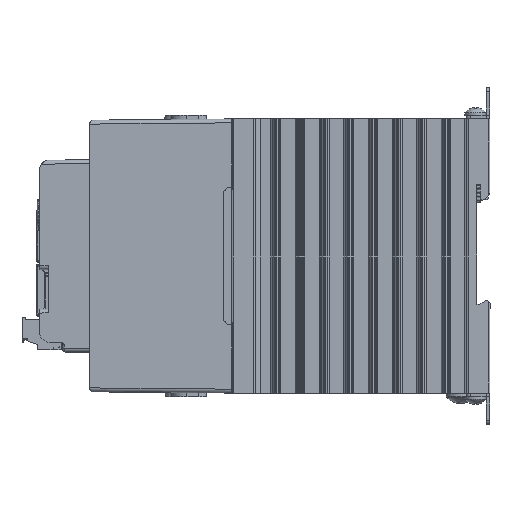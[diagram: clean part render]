
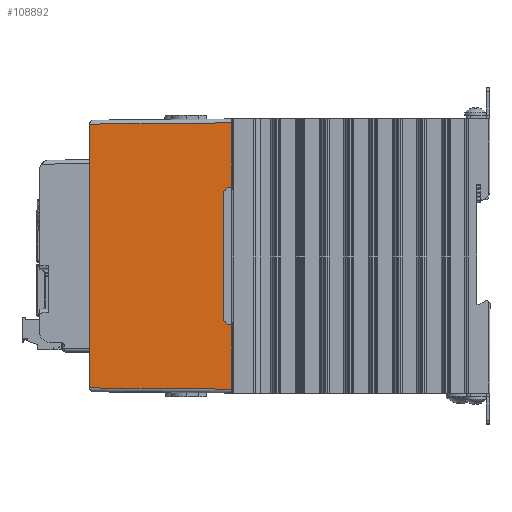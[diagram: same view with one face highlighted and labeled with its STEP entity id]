
A CAD part, left-side view. The second image highlights one B-rep face of the part: STEP entity #108892.
In plain terms, the highlighted planar face has unit normal (-1, 0.009, 0) as drawn and (1, 0, 0.009) by its records, which use the part's own axes.
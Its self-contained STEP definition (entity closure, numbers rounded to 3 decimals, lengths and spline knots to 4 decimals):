
#12513=FACE_OUTER_BOUND('',#18544,.T.);
#18544=EDGE_LOOP('',(#95578,#95579,#95580,#95581,#95582,#95583,#95584,#95585,
#95586,#95587));
#29619=LINE('',#189339,#41327);
#29749=LINE('',#190124,#41457);
#29755=LINE('',#190136,#41463);
#29759=LINE('',#190142,#41467);
#29761=LINE('',#190146,#41469);
#29763=LINE('',#190150,#41471);
#29764=LINE('',#190153,#41472);
#30109=LINE('',#190911,#41817);
#30111=LINE('',#190917,#41819);
#30112=LINE('',#190918,#41820);
#41327=VECTOR('',#142705,0.3937);
#41457=VECTOR('',#143081,0.3937);
#41463=VECTOR('',#143091,0.3937);
#41467=VECTOR('',#143099,0.3937);
#41469=VECTOR('',#143103,0.3937);
#41471=VECTOR('',#143107,0.3937);
#41472=VECTOR('',#143110,0.3937);
#41817=VECTOR('',#143835,0.3937);
#41819=VECTOR('',#143843,0.3937);
#41820=VECTOR('',#143844,0.3937);
#51312=VERTEX_POINT('',#189336);
#51313=VERTEX_POINT('',#189338);
#51416=VERTEX_POINT('',#190121);
#51417=VERTEX_POINT('',#190123);
#51420=VERTEX_POINT('',#190133);
#51421=VERTEX_POINT('',#190135);
#51422=VERTEX_POINT('',#190144);
#51423=VERTEX_POINT('',#190148);
#51424=VERTEX_POINT('',#190152);
#51624=VERTEX_POINT('',#190916);
#65972=EDGE_CURVE('',#51313,#51312,#29619,.T.);
#66160=EDGE_CURVE('',#51417,#51416,#29749,.T.);
#66166=EDGE_CURVE('',#51421,#51420,#29755,.T.);
#66170=EDGE_CURVE('',#51416,#51421,#29759,.T.);
#66172=EDGE_CURVE('',#51420,#51422,#29761,.T.);
#66174=EDGE_CURVE('',#51422,#51423,#29763,.T.);
#66175=EDGE_CURVE('',#51424,#51417,#29764,.T.);
#66541=EDGE_CURVE('',#51424,#51312,#30109,.T.);
#66544=EDGE_CURVE('',#51423,#51624,#30111,.T.);
#66545=EDGE_CURVE('',#51313,#51624,#30112,.T.);
#95578=ORIENTED_EDGE('',*,*,#66174,.T.);
#95579=ORIENTED_EDGE('',*,*,#66544,.T.);
#95580=ORIENTED_EDGE('',*,*,#66545,.F.);
#95581=ORIENTED_EDGE('',*,*,#65972,.T.);
#95582=ORIENTED_EDGE('',*,*,#66541,.F.);
#95583=ORIENTED_EDGE('',*,*,#66175,.T.);
#95584=ORIENTED_EDGE('',*,*,#66160,.T.);
#95585=ORIENTED_EDGE('',*,*,#66170,.T.);
#95586=ORIENTED_EDGE('',*,*,#66166,.T.);
#95587=ORIENTED_EDGE('',*,*,#66172,.T.);
#103708=PLANE('',#117303);
#108892=ADVANCED_FACE('',(#12513),#103708,.T.);
#117303=AXIS2_PLACEMENT_3D('',#190915,#143841,#143842);
#142705=DIRECTION('',(0.,-1.,0.));
#143081=DIRECTION('',(-0.009,0.009,1.));
#143091=DIRECTION('',(0.,1.,0.));
#143099=DIRECTION('',(-0.006,0.71,0.704));
#143103=DIRECTION('',(0.006,0.71,-0.704));
#143107=DIRECTION('',(0.009,0.009,-1.));
#143110=DIRECTION('',(0.,1.,0.));
#143835=DIRECTION('',(-0.009,0.009,1.));
#143841=DIRECTION('center_axis',(1.,0.,
0.009));
#143842=DIRECTION('ref_axis',(0.,1.,0.));
#143843=DIRECTION('',(0.,1.,0.));
#143844=DIRECTION('',(0.009,0.009,-1.));
#189336=CARTESIAN_POINT('',(1.3842,0.0658,1.811));
#189338=CARTESIAN_POINT('',(1.3842,3.4342,1.811));
#189339=CARTESIAN_POINT('',(1.3842,0.,1.811));
#190121=CARTESIAN_POINT('',(1.3995,0.8705,0.0521));
#190123=CARTESIAN_POINT('',(1.4,0.87,0.));
#190124=CARTESIAN_POINT('',(1.3996,0.8704,0.0436));
#190133=CARTESIAN_POINT('',(1.3991,2.5762,0.105));
#190135=CARTESIAN_POINT('',(1.3991,0.9238,0.105));
#190136=CARTESIAN_POINT('',(1.3991,3.0381,0.105));
#190142=CARTESIAN_POINT('',(1.3937,1.5503,0.726));
#190144=CARTESIAN_POINT('',(1.3995,2.6295,0.0521));
#190146=CARTESIAN_POINT('',(1.4015,2.859,-0.1754));
#190148=CARTESIAN_POINT('',(1.4,2.63,0.));
#190150=CARTESIAN_POINT('',(1.4,2.63,0.0023));
#190152=CARTESIAN_POINT('',(1.4,0.05,0.));
#190153=CARTESIAN_POINT('',(1.4,0.,0.));
#190911=CARTESIAN_POINT('',(1.3999,0.0501,0.0148));
#190915=CARTESIAN_POINT('Origin',(1.4,3.5,0.));
#190916=CARTESIAN_POINT('',(1.4,3.45,0.));
#190917=CARTESIAN_POINT('',(1.4,0.,0.));
#190918=CARTESIAN_POINT('',(1.4,3.45,0.0057));
